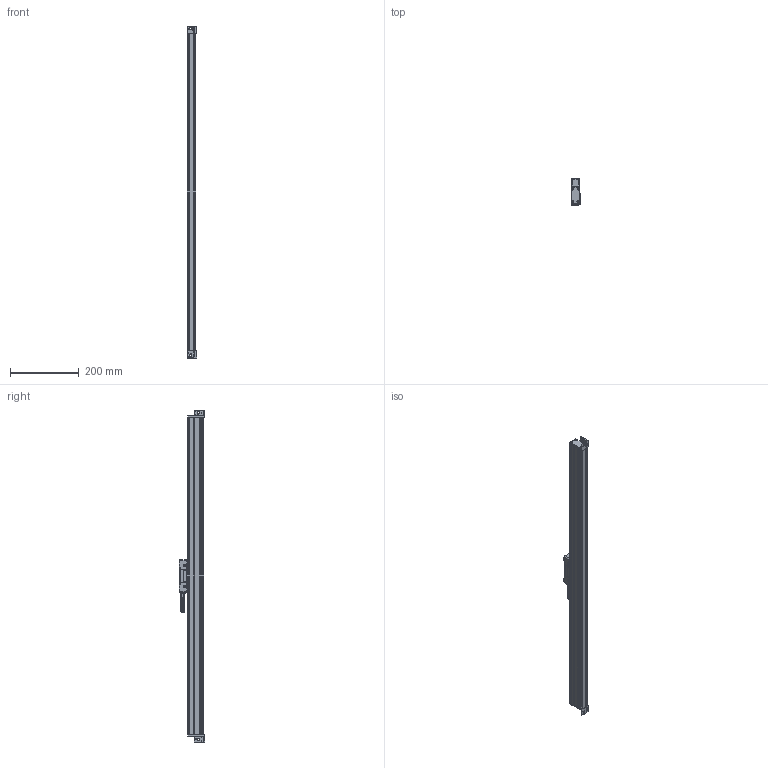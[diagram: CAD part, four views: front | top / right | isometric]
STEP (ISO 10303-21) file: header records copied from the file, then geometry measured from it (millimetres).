
FILE_DESCRIPTION (( 'STEP AP214' ), '1' );
FILE_NAME ('MLC310x0800.STEP', '2021-05-08T11:51:41', ( '' ), ( '' ), 'SwSTEP 2.0', 'SolidWorks 2014', '' );
FILE_SCHEMA (( 'AUTOMOTIVE_DESIGN' ));
Length unit declared in the file: millimetre
Products named in the file (1): MLC310x0800
Bounding box: 27 x 75.15 x 964 mm (x, y, z)
Surface area: 173909.1 mm2 (no closed solid volume)
Topology: 0 solids, 22 shells, 408 faces, 1363 edges, 967 vertices
Faces by surface type: plane 168, cylinder 137, cone 71, bspline 24, torus 8
Entity records: 29490 total; most frequent: CARTESIAN_POINT 13459, DIRECTION 2359, ORIENTED_EDGE 2134, EDGE_CURVE 1359, VERTEX_POINT 967, AXIS2_PLACEMENT_3D 817, VECTOR 725, LINE 725
